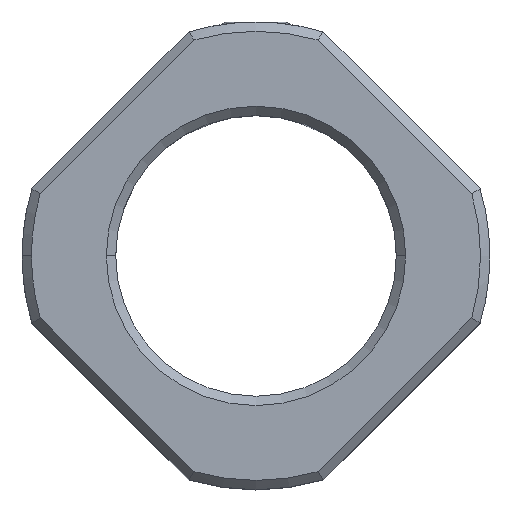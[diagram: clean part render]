
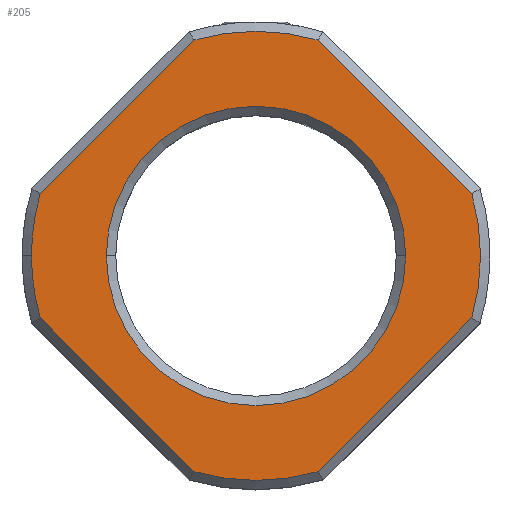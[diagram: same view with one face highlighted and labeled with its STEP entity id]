
A CAD part, top view. The second image highlights one B-rep face of the part: STEP entity #205.
In plain terms, the highlighted planar face has unit normal (0, 0, 1).
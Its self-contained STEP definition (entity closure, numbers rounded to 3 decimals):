
#139 = VERTEX_POINT ( 'NONE', #851 ) ;
#141 = EDGE_CURVE ( 'NONE', #143, #139, #845, .T. ) ;
#143 = VERTEX_POINT ( 'NONE', #840 ) ;
#175 = ORIENTED_EDGE ( 'NONE', *, *, #176, .T. ) ;
#176 = EDGE_CURVE ( 'NONE', #139, #177, #922, .T. ) ;
#177 = VERTEX_POINT ( 'NONE', #914 ) ;
#178 = ORIENTED_EDGE ( 'NONE', *, *, #179, .T. ) ;
#179 = EDGE_CURVE ( 'NONE', #177, #2302, #913, .T. ) ;
#189 = EDGE_CURVE ( 'NONE', #2299, #190, #897, .T. ) ;
#190 = VERTEX_POINT ( 'NONE', #954 ) ;
#191 = ORIENTED_EDGE ( 'NONE', *, *, #192, .T. ) ;
#192 = EDGE_CURVE ( 'NONE', #190, #193, #953, .T. ) ;
#193 = VERTEX_POINT ( 'NONE', #949 ) ;
#194 = ORIENTED_EDGE ( 'NONE', *, *, #195, .T. ) ;
#195 = EDGE_CURVE ( 'NONE', #193, #196, #948, .T. ) ;
#196 = VERTEX_POINT ( 'NONE', #943 ) ;
#197 = ORIENTED_EDGE ( 'NONE', *, *, #198, .T. ) ;
#198 = EDGE_CURVE ( 'NONE', #196, #199, #942, .T. ) ;
#199 = VERTEX_POINT ( 'NONE', #938 ) ;
#200 = ORIENTED_EDGE ( 'NONE', *, *, #201, .T. ) ;
#201 = EDGE_CURVE ( 'NONE', #199, #143, #937, .T. ) ;
#202 = ORIENTED_EDGE ( 'NONE', *, *, #141, .T. ) ;
#205 = ADVANCED_FACE ( 'NONE', ( #928, #927 ), #926, .T. ) ;
#206 = EDGE_LOOP ( 'NONE', ( #207, #208 ) ) ;
#207 = ORIENTED_EDGE ( 'NONE', *, *, #597, .T. ) ;
#208 = ORIENTED_EDGE ( 'NONE', *, *, #209, .T. ) ;
#209 = EDGE_CURVE ( 'NONE', #586, #602, #984, .T. ) ;
#210 = EDGE_LOOP ( 'NONE', ( #211, #2300, #191, #194, #197, #200, #202, #175, #178 ) ) ;
#211 = ORIENTED_EDGE ( 'NONE', *, *, #2301, .T. ) ;
#586 = VERTEX_POINT ( 'NONE', #1689 ) ;
#597 = EDGE_CURVE ( 'NONE', #602, #586, #1729, .T. ) ;
#602 = VERTEX_POINT ( 'NONE', #1715 ) ;
#840 = CARTESIAN_POINT ( 'NONE',  ( -12., 0., 0. ) ) ;
#841 = DIRECTION ( 'NONE',  ( 1., 0., 0. ) ) ;
#842 = DIRECTION ( 'NONE',  ( 0., 0., 1. ) ) ;
#843 = CARTESIAN_POINT ( 'NONE',  ( 0., 0., 0. ) ) ;
#844 = AXIS2_PLACEMENT_3D ( 'NONE', #843, #842, #841 ) ;
#845 = CIRCLE ( 'NONE', #844, 12. ) ;
#851 = CARTESIAN_POINT ( 'NONE',  ( -11.533, -3.317, 0. ) ) ;
#894 = DIRECTION ( 'NONE',  ( 0., 0., 1. ) ) ;
#895 = CARTESIAN_POINT ( 'NONE',  ( 0., 0., 0. ) ) ;
#896 = AXIS2_PLACEMENT_3D ( 'NONE', #895, #894, #955 ) ;
#897 = CIRCLE ( 'NONE', #896, 12. ) ;
#909 = DIRECTION ( 'NONE',  ( 1., 0., 0. ) ) ;
#910 = DIRECTION ( 'NONE',  ( 0., 0., 1. ) ) ;
#911 = CARTESIAN_POINT ( 'NONE',  ( 0., 0., 0. ) ) ;
#912 = AXIS2_PLACEMENT_3D ( 'NONE', #911, #910, #909 ) ;
#913 = CIRCLE ( 'NONE', #912, 12. ) ;
#914 = CARTESIAN_POINT ( 'NONE',  ( -3.317, -11.533, 0. ) ) ;
#915 = DIRECTION ( 'NONE',  ( 0.707, -0.707, 0. ) ) ;
#916 = VECTOR ( 'NONE', #915, 1000. ) ;
#917 = CARTESIAN_POINT ( 'NONE',  ( -15.203, 0.354, 0. ) ) ;
#922 = LINE ( 'NONE', #917, #916 ) ;
#925 = AXIS2_PLACEMENT_3D ( 'NONE', #987, #986, #985 ) ;
#926 = PLANE ( 'NONE',  #925 ) ;
#927 = FACE_OUTER_BOUND ( 'NONE', #210, .T. ) ;
#928 = FACE_BOUND ( 'NONE', #206, .T. ) ;
#933 = DIRECTION ( 'NONE',  ( 1., 0., 0. ) ) ;
#934 = DIRECTION ( 'NONE',  ( 0., 0., 1. ) ) ;
#935 = CARTESIAN_POINT ( 'NONE',  ( 0., 0., 0. ) ) ;
#936 = AXIS2_PLACEMENT_3D ( 'NONE', #935, #934, #933 ) ;
#937 = CIRCLE ( 'NONE', #936, 12. ) ;
#938 = CARTESIAN_POINT ( 'NONE',  ( -11.533, 3.317, 0. ) ) ;
#939 = DIRECTION ( 'NONE',  ( -0.707, -0.707, 0. ) ) ;
#940 = VECTOR ( 'NONE', #939, 1000. ) ;
#941 = CARTESIAN_POINT ( 'NONE',  ( 0.354, 15.203, 0. ) ) ;
#942 = LINE ( 'NONE', #941, #940 ) ;
#943 = CARTESIAN_POINT ( 'NONE',  ( -3.317, 11.533, 0. ) ) ;
#944 = DIRECTION ( 'NONE',  ( 1., 0., 0. ) ) ;
#945 = DIRECTION ( 'NONE',  ( 0., 0., 1. ) ) ;
#946 = CARTESIAN_POINT ( 'NONE',  ( 0., 0., 0. ) ) ;
#947 = AXIS2_PLACEMENT_3D ( 'NONE', #946, #945, #944 ) ;
#948 = CIRCLE ( 'NONE', #947, 12. ) ;
#949 = CARTESIAN_POINT ( 'NONE',  ( 3.317, 11.533, 0. ) ) ;
#950 = DIRECTION ( 'NONE',  ( -0.707, 0.707, 0. ) ) ;
#951 = VECTOR ( 'NONE', #950, 1000. ) ;
#952 = CARTESIAN_POINT ( 'NONE',  ( -0.354, 15.203, 0. ) ) ;
#953 = LINE ( 'NONE', #952, #951 ) ;
#954 = CARTESIAN_POINT ( 'NONE',  ( 11.533, 3.317, 0. ) ) ;
#955 = DIRECTION ( 'NONE',  ( 1., 0., 0. ) ) ;
#980 = DIRECTION ( 'NONE',  ( 1., 0., 0. ) ) ;
#981 = DIRECTION ( 'NONE',  ( 0., 0., -1. ) ) ;
#982 = CARTESIAN_POINT ( 'NONE',  ( 0., 0., 0. ) ) ;
#983 = AXIS2_PLACEMENT_3D ( 'NONE', #982, #981, #980 ) ;
#984 = CIRCLE ( 'NONE', #983, 8. ) ;
#985 = DIRECTION ( 'NONE',  ( 1., 0., 0. ) ) ;
#986 = DIRECTION ( 'NONE',  ( 0., 0., 1. ) ) ;
#987 = CARTESIAN_POINT ( 'NONE',  ( 0., 15.556, 0. ) ) ;
#1689 = CARTESIAN_POINT ( 'NONE',  ( -8., 0., 0. ) ) ;
#1715 = CARTESIAN_POINT ( 'NONE',  ( 8., 0., 0. ) ) ;
#1725 = DIRECTION ( 'NONE',  ( 1., 0., 0. ) ) ;
#1726 = DIRECTION ( 'NONE',  ( 0., 0., -1. ) ) ;
#1727 = CARTESIAN_POINT ( 'NONE',  ( 0., 0., 0. ) ) ;
#1728 = AXIS2_PLACEMENT_3D ( 'NONE', #1727, #1726, #1725 ) ;
#1729 = CIRCLE ( 'NONE', #1728, 8. ) ;
#1805 = CARTESIAN_POINT ( 'NONE',  ( 3.317, -11.533, 0. ) ) ;
#1806 = DIRECTION ( 'NONE',  ( 0.707, 0.707, 0. ) ) ;
#1807 = VECTOR ( 'NONE', #1806, 1000. ) ;
#1808 = CARTESIAN_POINT ( 'NONE',  ( 15.203, 0.354, 0. ) ) ;
#1809 = LINE ( 'NONE', #1808, #1807 ) ;
#1810 = CARTESIAN_POINT ( 'NONE',  ( 11.533, -3.317, 0. ) ) ;
#2299 = VERTEX_POINT ( 'NONE', #1810 ) ;
#2300 = ORIENTED_EDGE ( 'NONE', *, *, #189, .T. ) ;
#2301 = EDGE_CURVE ( 'NONE', #2302, #2299, #1809, .T. ) ;
#2302 = VERTEX_POINT ( 'NONE', #1805 ) ;
